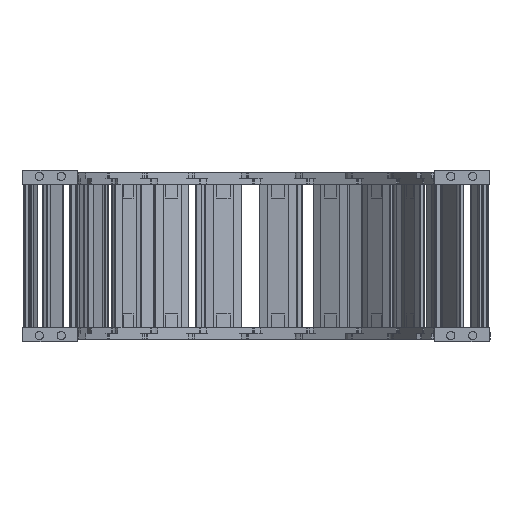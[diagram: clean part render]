
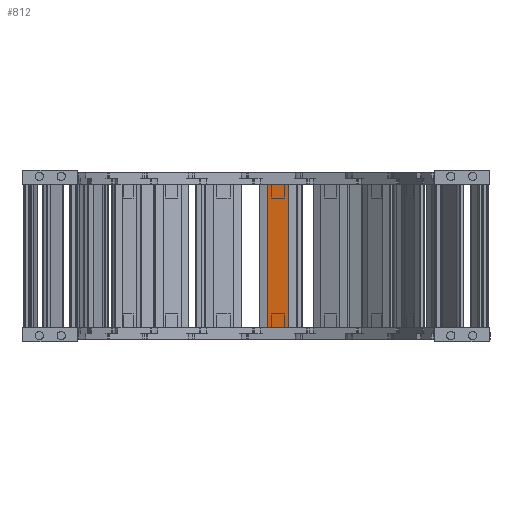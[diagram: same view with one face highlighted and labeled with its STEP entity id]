
A CAD part, left-side view. The second image highlights one B-rep face of the part: STEP entity #812.
In plain terms, the highlighted planar face has unit normal (-0.993, 0.122, 0) as drawn and (0, -1, 0) by its records, which use the part's own axes.
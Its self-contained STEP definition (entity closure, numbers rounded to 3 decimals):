
#366=DIRECTION('',(0.,0.,-1.));
#367=VECTOR('',#366,15.);
#368=CARTESIAN_POINT('',(-13.5,0.,7.5));
#369=LINE('',#368,#367);
#453=DIRECTION('',(-1.,0.,0.));
#454=VECTOR('',#453,104.4);
#455=CARTESIAN_POINT('',(90.9,0.,-7.5));
#456=LINE('',#455,#454);
#460=DIRECTION('',(1.,0.,0.));
#461=VECTOR('',#460,104.4);
#462=CARTESIAN_POINT('',(-13.5,0.,7.5));
#463=LINE('',#462,#461);
#467=DIRECTION('',(0.,0.,-1.));
#468=VECTOR('',#467,15.);
#469=CARTESIAN_POINT('',(90.9,0.,7.5));
#470=LINE('',#469,#468);
#585=CARTESIAN_POINT('',(90.9,0.,7.5));
#586=CARTESIAN_POINT('',(90.9,0.,-7.5));
#587=VERTEX_POINT('',#585);
#588=VERTEX_POINT('',#586);
#609=CARTESIAN_POINT('',(-13.5,0.,-7.5));
#610=VERTEX_POINT('',#609);
#611=CARTESIAN_POINT('',(-13.5,0.,7.5));
#612=VERTEX_POINT('',#611);
#799=CARTESIAN_POINT('',(59.4,0.,0.));
#800=DIRECTION('',(0.,1.,0.));
#801=DIRECTION('',(1.,0.,0.));
#802=AXIS2_PLACEMENT_3D('',#799,#800,#801);
#803=PLANE('',#802);
#804=ORIENTED_EDGE('',*,*,#785,.T.);
#805=ORIENTED_EDGE('',*,*,#650,.F.);
#807=ORIENTED_EDGE('',*,*,#806,.T.);
#809=ORIENTED_EDGE('',*,*,#808,.T.);
#810=EDGE_LOOP('',(#804,#805,#807,#809));
#811=FACE_OUTER_BOUND('',#810,.F.);
#812=ADVANCED_FACE('',(#811),#803,.F.);
#650=EDGE_CURVE('',#612,#610,#369,.T.);
#785=EDGE_CURVE('',#588,#610,#456,.T.);
#806=EDGE_CURVE('',#612,#587,#463,.T.);
#808=EDGE_CURVE('',#587,#588,#470,.T.);
